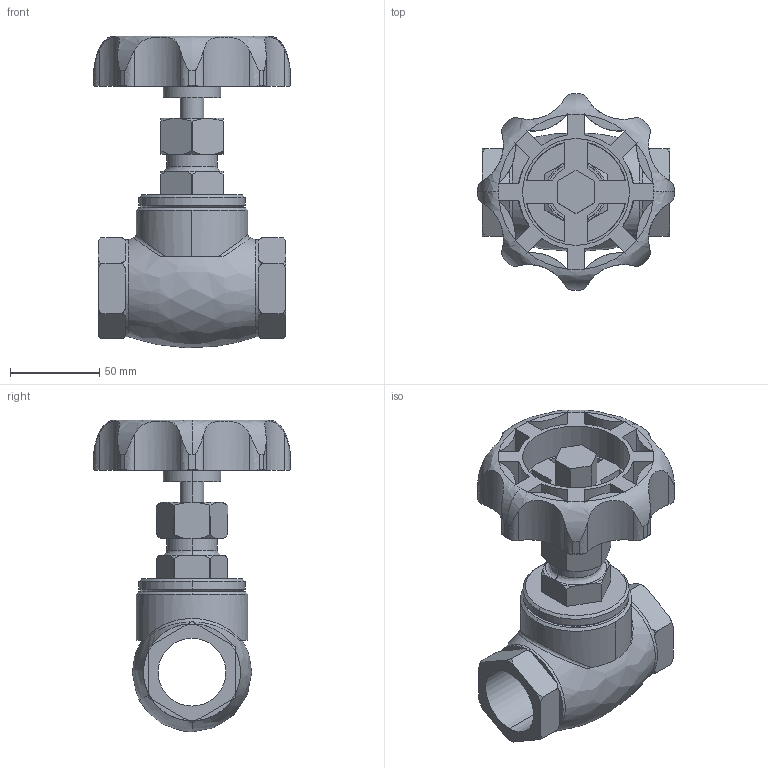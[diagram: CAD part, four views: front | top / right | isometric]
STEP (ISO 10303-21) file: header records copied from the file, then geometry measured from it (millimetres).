
FILE_DESCRIPTION( (''), '2;1');
FILE_NAME ('PC1027.9568.3D GLV-10 32A_15391.stp','2025-07-28T11:29:59',(''),(''),'spGate 19.8.4 (****-****-****-****)','','');
FILE_SCHEMA (('AUTOMOTIVE_DESIGN'));
Length unit declared in the file: millimetre
Bounding box: 110 x 109.99 x 174.32 mm (x, y, z)
Volume: 417023.2 mm3; surface area: 88830.3 mm2
Topology: 1 solids, 1 shells, 238 faces, 692 edges, 454 vertices
Faces by surface type: plane 92, bspline 86, cylinder 60
Entity records: 15854 total; most frequent: CARTESIAN_POINT 5001, ORIENTED_EDGE 1384, DIRECTION 976, COLOUR_RGB 931, PRESENTATION_STYLE_ASSIGNMENT 931, STYLED_ITEM 931, EDGE_CURVE 692, DRAUGHTING_PRE_DEFINED_CURVE_FONT 692
